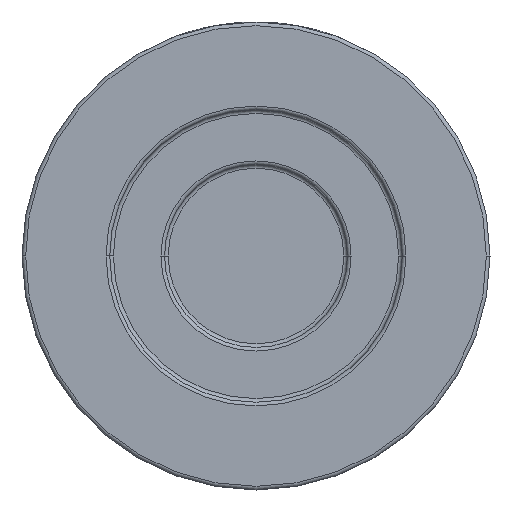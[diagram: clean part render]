
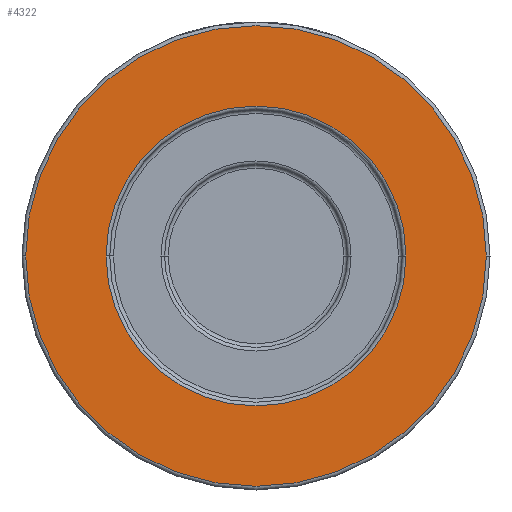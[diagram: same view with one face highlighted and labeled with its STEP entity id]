
A CAD part, front view. The second image highlights one B-rep face of the part: STEP entity #4322.
In plain terms, the highlighted planar face has unit normal (0, -1, 0).
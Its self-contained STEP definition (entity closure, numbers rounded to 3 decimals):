
#158 = CARTESIAN_POINT ( 'NONE',  ( 0., -45., 0. ) ) ;
#444 = EDGE_LOOP ( 'NONE', ( #1558, #1765 ) ) ;
#511 = ORIENTED_EDGE ( 'NONE', *, *, #3818, .T. ) ;
#534 = DIRECTION ( 'NONE',  ( 1., 0., 0. ) ) ;
#556 = EDGE_LOOP ( 'NONE', ( #1039, #511 ) ) ;
#578 = AXIS2_PLACEMENT_3D ( 'NONE', #3162, #1694, #4647 ) ;
#645 = EDGE_CURVE ( 'NONE', #1091, #2755, #2447, .T. ) ;
#835 = AXIS2_PLACEMENT_3D ( 'NONE', #1251, #2019, #534 ) ;
#935 = CARTESIAN_POINT ( 'NONE',  ( -41., -45., 0. ) ) ;
#1039 = ORIENTED_EDGE ( 'NONE', *, *, #645, .T. ) ;
#1082 = EDGE_CURVE ( 'NONE', #3561, #3643, #2935, .T. ) ;
#1091 = VERTEX_POINT ( 'NONE', #4580 ) ;
#1119 = CIRCLE ( 'NONE', #3370, 41. ) ;
#1251 = CARTESIAN_POINT ( 'NONE',  ( 0., -45., 0. ) ) ;
#1316 = DIRECTION ( 'NONE',  ( 0., -1., 0. ) ) ;
#1347 = AXIS2_PLACEMENT_3D ( 'NONE', #2903, #1316, #2087 ) ;
#1416 = PLANE ( 'NONE',  #1347 ) ;
#1558 = ORIENTED_EDGE ( 'NONE', *, *, #1082, .T. ) ;
#1576 = DIRECTION ( 'NONE',  ( 0., 1., 0. ) ) ;
#1613 = DIRECTION ( 'NONE',  ( 0., 1., 0. ) ) ;
#1694 = DIRECTION ( 'NONE',  ( 0., -1., 0. ) ) ;
#1765 = ORIENTED_EDGE ( 'NONE', *, *, #3380, .T. ) ;
#1986 = DIRECTION ( 'NONE',  ( 1., 0., 0. ) ) ;
#2019 = DIRECTION ( 'NONE',  ( 0., -1., 0. ) ) ;
#2087 = DIRECTION ( 'NONE',  ( 1., 0., 0. ) ) ;
#2447 = CIRCLE ( 'NONE', #835, 63. ) ;
#2459 = FACE_BOUND ( 'NONE', #444, .T. ) ;
#2589 = AXIS2_PLACEMENT_3D ( 'NONE', #158, #1613, #3804 ) ;
#2755 = VERTEX_POINT ( 'NONE', #4399 ) ;
#2903 = CARTESIAN_POINT ( 'NONE',  ( 64., -45., 0. ) ) ;
#2935 = CIRCLE ( 'NONE', #2589, 41. ) ;
#3109 = CARTESIAN_POINT ( 'NONE',  ( 0., -45., 0. ) ) ;
#3162 = CARTESIAN_POINT ( 'NONE',  ( 0., -45., 0. ) ) ;
#3370 = AXIS2_PLACEMENT_3D ( 'NONE', #3109, #1576, #1986 ) ;
#3380 = EDGE_CURVE ( 'NONE', #3643, #3561, #1119, .T. ) ;
#3448 = CARTESIAN_POINT ( 'NONE',  ( 41., -45., 0. ) ) ;
#3561 = VERTEX_POINT ( 'NONE', #3448 ) ;
#3638 = FACE_OUTER_BOUND ( 'NONE', #556, .T. ) ;
#3643 = VERTEX_POINT ( 'NONE', #935 ) ;
#3804 = DIRECTION ( 'NONE',  ( 1., 0., 0. ) ) ;
#3818 = EDGE_CURVE ( 'NONE', #2755, #1091, #3994, .T. ) ;
#3994 = CIRCLE ( 'NONE', #578, 63. ) ;
#4322 = ADVANCED_FACE ( 'NONE', ( #2459, #3638 ), #1416, .T. ) ;
#4399 = CARTESIAN_POINT ( 'NONE',  ( -63., -45., 0. ) ) ;
#4580 = CARTESIAN_POINT ( 'NONE',  ( 63., -45., 0. ) ) ;
#4647 = DIRECTION ( 'NONE',  ( 1., 0., 0. ) ) ;
